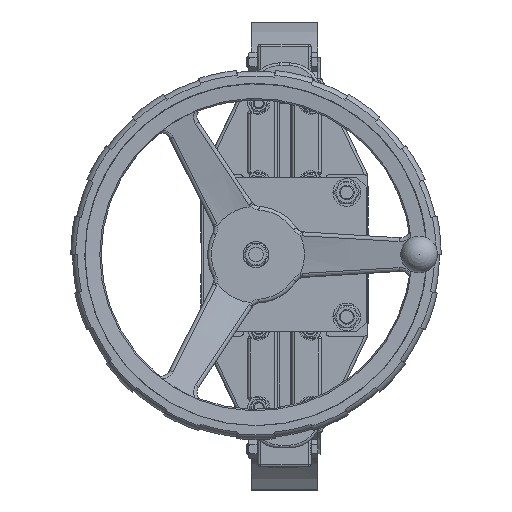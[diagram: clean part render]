
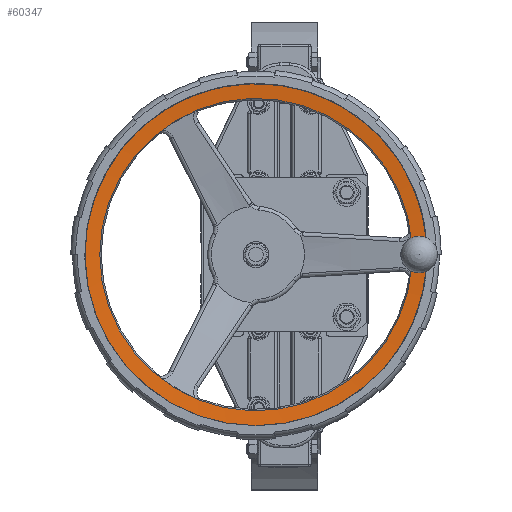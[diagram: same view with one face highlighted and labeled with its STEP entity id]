
A CAD part, top view. The second image highlights one B-rep face of the part: STEP entity #60347.
In plain terms, the highlighted conical face has half-angle 85 degrees and reference radius 185.695 mm.
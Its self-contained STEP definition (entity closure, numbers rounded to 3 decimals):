
#2125=B_SPLINE_CURVE_WITH_KNOTS('',3,(#109856,#109857,#109858,#109859,#109860,
#109861),.UNSPECIFIED.,.F.,.F.,(4,2,4),(0.009,0.016,
0.017),.UNSPECIFIED.);
#2183=B_SPLINE_CURVE_WITH_KNOTS('',3,(#115648,#115649,#115650,#115651,#115652,
#115653,#115654,#115655),.UNSPECIFIED.,.F.,.F.,(4,2,2,4),(-4.4,
-4.274,-3.739,-3.6),.UNSPECIFIED.);
#2184=B_SPLINE_CURVE_WITH_KNOTS('',3,(#115657,#115658,#115659,#115660,#115661,
#115662,#115663,#115664,#115665),.UNSPECIFIED.,.F.,.F.,(4,2,3,4),(-0.674,
-0.535,0.,0.126),.UNSPECIFIED.);
#2185=B_SPLINE_CURVE_WITH_KNOTS('',3,(#115669,#115670,#115671,#115672,#115673,
#115674,#115675),.UNSPECIFIED.,.F.,.F.,(4,3,4),(0.015,0.016,
0.023),.UNSPECIFIED.);
#8757=FACE_OUTER_BOUND('',#12486,.T.);
#12486=EDGE_LOOP('',(#54044,#54045,#54046,#54047,#54048,#54049,#54050));
#23446=CIRCLE('',#65155,185.695);
#23447=CIRCLE('',#65156,185.695);
#23476=CIRCLE('',#65204,169.584);
#28816=VERTEX_POINT('',#109853);
#28817=VERTEX_POINT('',#109855);
#28948=VERTEX_POINT('',#110257);
#28949=VERTEX_POINT('',#110260);
#29005=VERTEX_POINT('',#115620);
#29007=VERTEX_POINT('',#115642);
#29008=VERTEX_POINT('',#115647);
#37163=EDGE_CURVE('',#28816,#28817,#2125,.T.);
#37357=EDGE_CURVE('',#28948,#28816,#23446,.T.);
#37359=EDGE_CURVE('',#28949,#28948,#23447,.T.);
#37450=EDGE_CURVE('',#29008,#29007,#2183,.T.);
#37452=EDGE_CURVE('',#29005,#28817,#2184,.T.);
#37454=EDGE_CURVE('',#29008,#28949,#2185,.T.);
#37455=EDGE_CURVE('',#29007,#29005,#23476,.T.);
#54044=ORIENTED_EDGE('',*,*,#37163,.F.);
#54045=ORIENTED_EDGE('',*,*,#37357,.F.);
#54046=ORIENTED_EDGE('',*,*,#37359,.F.);
#54047=ORIENTED_EDGE('',*,*,#37454,.F.);
#54048=ORIENTED_EDGE('',*,*,#37450,.T.);
#54049=ORIENTED_EDGE('',*,*,#37455,.T.);
#54050=ORIENTED_EDGE('',*,*,#37452,.T.);
#55493=CONICAL_SURFACE('',#65203,185.695,1.484);
#60347=ADVANCED_FACE('',(#8757),#55493,.F.);
#65155=AXIS2_PLACEMENT_3D('',#110259,#78839,#78840);
#65156=AXIS2_PLACEMENT_3D('',#110262,#78842,#78843);
#65203=AXIS2_PLACEMENT_3D('',#115676,#78939,#78940);
#65204=AXIS2_PLACEMENT_3D('',#115677,#78941,#78942);
#78839=DIRECTION('center_axis',(0.,0.,-1.));
#78840=DIRECTION('ref_axis',(0.,1.,0.));
#78842=DIRECTION('center_axis',(0.,0.,-1.));
#78843=DIRECTION('ref_axis',(0.,1.,0.));
#78939=DIRECTION('center_axis',(0.,0.,1.));
#78940=DIRECTION('ref_axis',(-1.,0.,0.));
#78941=DIRECTION('center_axis',(0.,0.,-1.));
#78942=DIRECTION('ref_axis',(0.,1.,0.));
#109853=CARTESIAN_POINT('',(154.088,15.,876.91));
#109855=CARTESIAN_POINT('',(146.,15.,876.204));
#109856=CARTESIAN_POINT('Ctrl Pts',(154.088,15.,876.91));
#109857=CARTESIAN_POINT('Ctrl Pts',(151.752,15.,876.706));
#109858=CARTESIAN_POINT('Ctrl Pts',(149.415,15.,876.502));
#109859=CARTESIAN_POINT('Ctrl Pts',(146.719,15.,876.267));
#109860=CARTESIAN_POINT('Ctrl Pts',(146.36,15.,876.236));
#109861=CARTESIAN_POINT('Ctrl Pts',(146.,15.,876.204));
#110257=CARTESIAN_POINT('',(-31.,-185.695,876.91));
#110259=CARTESIAN_POINT('Origin',(-31.,0.,
876.91));
#110260=CARTESIAN_POINT('',(154.088,-15.,876.91));
#110262=CARTESIAN_POINT('Origin',(-31.,0.,
876.91));
#115620=CARTESIAN_POINT('',(138.104,12.753,875.5));
#115642=CARTESIAN_POINT('',(138.104,-12.753,875.5));
#115647=CARTESIAN_POINT('',(146.,-15.,876.204));
#115648=CARTESIAN_POINT('Ctrl Pts',(146.,-15.,876.204));
#115649=CARTESIAN_POINT('Ctrl Pts',(145.571,-15.,876.167));
#115650=CARTESIAN_POINT('Ctrl Pts',(145.146,-14.982,
876.13));
#115651=CARTESIAN_POINT('Ctrl Pts',(142.957,-14.795,
875.938));
#115652=CARTESIAN_POINT('Ctrl Pts',(141.089,-14.3,
875.771));
#115653=CARTESIAN_POINT('Ctrl Pts',(138.948,-13.248,
875.577));
#115654=CARTESIAN_POINT('Ctrl Pts',(138.519,-13.01,
875.538));
#115655=CARTESIAN_POINT('Ctrl Pts',(138.104,-12.753,875.5));
#115657=CARTESIAN_POINT('Ctrl Pts',(138.104,12.753,875.5));
#115658=CARTESIAN_POINT('Ctrl Pts',(138.519,13.01,875.538));
#115659=CARTESIAN_POINT('Ctrl Pts',(138.948,13.248,875.577));
#115660=CARTESIAN_POINT('Ctrl Pts',(141.089,14.3,875.771));
#115661=CARTESIAN_POINT('Ctrl Pts',(142.957,14.795,875.938));
#115662=CARTESIAN_POINT('Ctrl Pts',(144.729,14.946,876.093));
#115663=CARTESIAN_POINT('Ctrl Pts',(145.146,14.982,876.13));
#115664=CARTESIAN_POINT('Ctrl Pts',(145.571,15.,876.167));
#115665=CARTESIAN_POINT('Ctrl Pts',(146.,15.,876.204));
#115669=CARTESIAN_POINT('Ctrl Pts',(146.,-15.,876.204));
#115670=CARTESIAN_POINT('Ctrl Pts',(146.36,-15.,
876.236));
#115671=CARTESIAN_POINT('Ctrl Pts',(146.719,-15.,
876.267));
#115672=CARTESIAN_POINT('Ctrl Pts',(147.079,-15.,
876.298));
#115673=CARTESIAN_POINT('Ctrl Pts',(149.415,-15.,
876.502));
#115674=CARTESIAN_POINT('Ctrl Pts',(151.752,-15.,
876.706));
#115675=CARTESIAN_POINT('Ctrl Pts',(154.088,-15.,
876.91));
#115676=CARTESIAN_POINT('Origin',(-31.,0.,
876.91));
#115677=CARTESIAN_POINT('Origin',(-31.,0.,
875.5));
